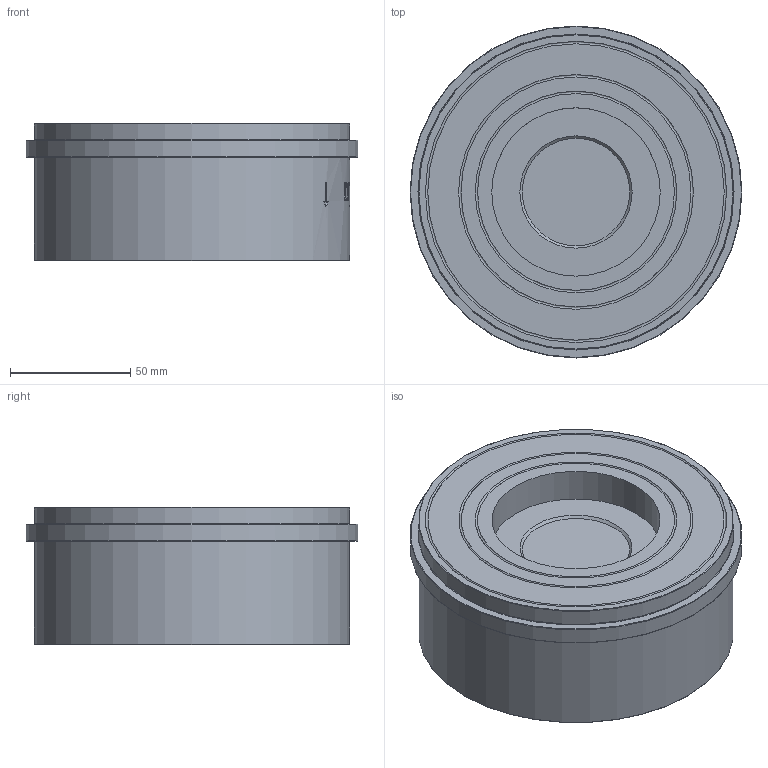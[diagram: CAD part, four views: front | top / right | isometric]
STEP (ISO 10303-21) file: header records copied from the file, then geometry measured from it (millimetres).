
FILE_DESCRIPTION(('STEP AP214'), '1');
FILE_NAME('VCS3232-Fb 孰囡囗 钺疣蝽 DN.ru 捏80 畜40', '', ('UNSPECIFIED'), ('UNSPECIFIED'), 'C3D Converter', 'C3D Toolkit', '');
FILE_SCHEMA(('AUTOMOTIVE_DESIGN { 1 0 10303 214 3 1 1}'));
Length unit declared in the file: millimetre
Products named in the file (1): VCS3232-Fb
Bounding box: 138 x 138 x 57 mm (x, y, z)
Volume: 376536 mm3; surface area: 116260.9 mm2
Topology: 2 solids, 2 shells, 142 faces, 345 edges, 226 vertices
Faces by surface type: plane 70, cylinder 30, extrusion 29, torus 11, bspline 1, cone 1
Full cylindrical faces by diameter (mm): 23.333 x1, 23.533 x1, 70 x1, 79.98 x1, 84 x1, 98 x1, 104 x1, 107.98 x1, 108 x1, 117 x1, 131 x2, 138 x1
Entity records: 9103 total; most frequent: CARTESIAN_POINT 5133, ORIENTED_EDGE 638, DIRECTION 604, EDGE_CURVE 319, VERTEX_POINT 226, AXIS2_PLACEMENT_3D 225, EDGE_LOOP 197, VECTOR 154
